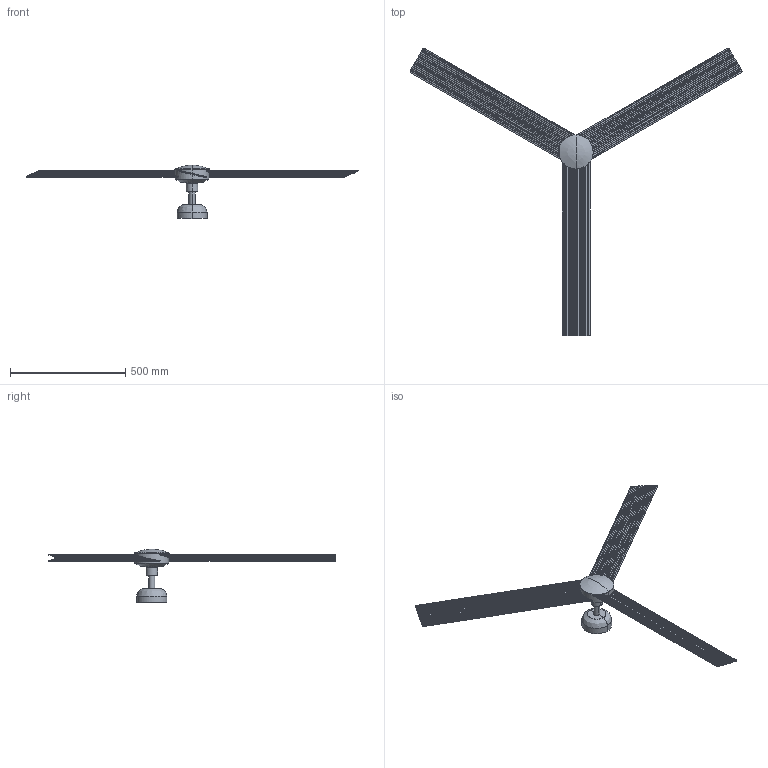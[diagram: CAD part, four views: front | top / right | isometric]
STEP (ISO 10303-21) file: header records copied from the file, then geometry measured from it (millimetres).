
FILE_DESCRIPTION(/* description */ (''),/* implementation_level */ '2;1');
FILE_NAME(/* name */ '34292.step',/* time_stamp */ '2024-04-16T16:21:13+02:00',/* author */ ('RenataManzini'),/* organization */ (''),/* preprocessor_version */ 'ST-DEVELOPER v20',/* originating_system */ 'AutoCAD Mechanical',/* authorisation */ '');
FILE_SCHEMA (('AUTOMOTIVE_DESIGN { 1 0 10303 214 3 1 1 }'));
Length unit declared in the file: millimetre
Products named in the file (5): Product; pieza_cruiser_XL - Cruiser-480921-_3D_; pieza_cruiser_XL - pala 1600_dwg-480919-_3D_; pieza_cruiser_XL - pala 1600_dwg_ABYP____-480920-_3D_; pieza_cruiser_XL - Cruiser without light-1060_dwg_ABW2C6_____-480918-
_3D_
Assembly tree (6 placements, depth 4):
  Product
    pieza_cruiser_XL - Cruiser-480921-_3D_
      pieza_cruiser_XL - pala 1600_dwg-480919-_3D_
        pieza_cruiser_XL - pala 1600_dwg_ABYP____-480920-_3D_  x3
      pieza_cruiser_XL - Cruiser without light-1060_dwg_ABW2C6_____-480918-
_3D_
Bounding box: 1442.38 x 1251.12 x 233.02 mm (x, y, z)
Volume: 826814.1 mm3; surface area: 805781.5 mm2
Topology: 2 solids, 6 shells, 373 faces, 1090 edges, 701 vertices
Faces by surface type: plane 246, cylinder 100, torus 17, bspline 6, cone 4
Entity records: 9791 total; most frequent: CARTESIAN_POINT 3281, ORIENTED_EDGE 1378, DIRECTION 1308, EDGE_CURVE 699, AXIS2_PLACEMENT_3D 456, VERTEX_POINT 444, LINE 396, VECTOR 396
